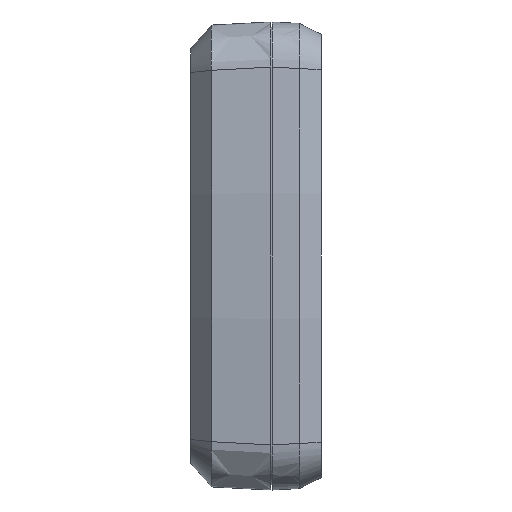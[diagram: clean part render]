
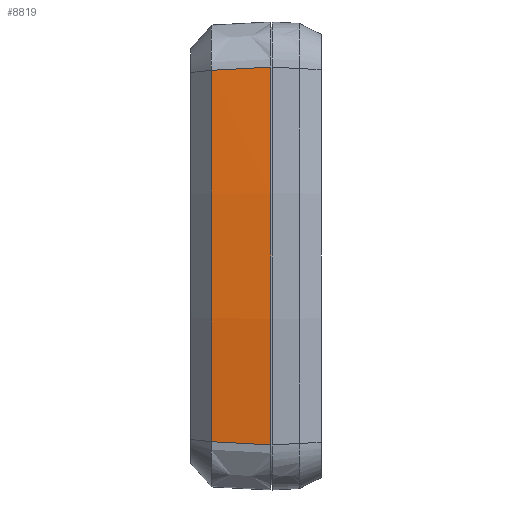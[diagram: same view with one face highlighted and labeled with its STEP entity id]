
A CAD part, left-side view. The second image highlights one B-rep face of the part: STEP entity #8819.
In plain terms, the highlighted conical face has half-angle 3 degrees and reference radius 490.643 mm.
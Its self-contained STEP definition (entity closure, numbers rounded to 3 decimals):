
#52 = CARTESIAN_POINT ( 'NONE',  ( -49.988, 4.936, -46.954 ) ) ;
#72 = AXIS2_PLACEMENT_3D ( 'NONE', #9546, #4339, #10435 ) ;
#299 = EDGE_CURVE ( 'NONE', #4056, #7175, #4051, .T. ) ;
#1024 = CARTESIAN_POINT ( 'NONE',  ( 438.143, 0., 0. ) ) ;
#1170 = CARTESIAN_POINT ( 'NONE',  ( 438.143, 0., 0. ) ) ;
#1910 = DIRECTION ( 'NONE',  ( 0., 0., 1. ) ) ;
#2475 = EDGE_CURVE ( 'NONE', #7175, #10667, #4737, .T. ) ;
#3655 = CARTESIAN_POINT ( 'NONE',  ( -49.519, 14.807, -46.424 ) ) ;
#3725 = CARTESIAN_POINT ( 'NONE',  ( -50.223, 0., 47.218 ) ) ;
#3873 = ORIENTED_EDGE ( 'NONE', *, *, #4615, .T. ) ;
#4051 = CIRCLE ( 'NONE', #72, 489.867 ) ;
#4056 = VERTEX_POINT ( 'NONE', #8674 ) ;
#4242 = CONICAL_SURFACE ( 'NONE', #10217, 490.643, 0.052 ) ;
#4339 = DIRECTION ( 'NONE',  ( 0., -1., 0. ) ) ;
#4347 = CARTESIAN_POINT ( 'NONE',  ( -49.519, 14.807, -46.424 ) ) ;
#4516 = FACE_OUTER_BOUND ( 'NONE', #8921, .T. ) ;
#4615 = EDGE_CURVE ( 'NONE', #8289, #4056, #4942, .T. ) ;
#4737 = B_SPLINE_CURVE_WITH_KNOTS ( 'NONE', 3,
 ( #4347, #9555, #52, #6096 ),
 .UNSPECIFIED., .F., .F.,
 ( 4, 4 ),
 ( 0.005, 0.02 ),
 .UNSPECIFIED. ) ;
#4942 = B_SPLINE_CURVE_WITH_KNOTS ( 'NONE', 3,
 ( #3725, #8934, #10700, #5460 ),
 .UNSPECIFIED., .F., .F.,
 ( 4, 4 ),
 ( 0., 0.015 ),
 .UNSPECIFIED. ) ;
#4946 = CIRCLE ( 'NONE', #6985, 490.643 ) ;
#5460 = CARTESIAN_POINT ( 'NONE',  ( -49.519, 14.807, 46.424 ) ) ;
#5693 = CARTESIAN_POINT ( 'NONE',  ( -50.223, 0., -47.218 ) ) ;
#6083 = ORIENTED_EDGE ( 'NONE', *, *, #299, .T. ) ;
#6096 = CARTESIAN_POINT ( 'NONE',  ( -50.223, 0., -47.218 ) ) ;
#6308 = DIRECTION ( 'NONE',  ( 0., 0., 1. ) ) ;
#6985 = AXIS2_PLACEMENT_3D ( 'NONE', #1024, #7080, #1910 ) ;
#7080 = DIRECTION ( 'NONE',  ( 0., 1., 0. ) ) ;
#7106 = EDGE_CURVE ( 'NONE', #10667, #8289, #4946, .T. ) ;
#7175 = VERTEX_POINT ( 'NONE', #3655 ) ;
#7471 = ORIENTED_EDGE ( 'NONE', *, *, #2475, .T. ) ;
#8082 = DIRECTION ( 'NONE',  ( 0., -1., 0. ) ) ;
#8289 = VERTEX_POINT ( 'NONE', #9931 ) ;
#8674 = CARTESIAN_POINT ( 'NONE',  ( -49.519, 14.807, 46.424 ) ) ;
#8819 = ADVANCED_FACE ( 'NONE', ( #4516 ), #4242, .T. ) ;
#8921 = EDGE_LOOP ( 'NONE', ( #3873, #6083, #7471, #10328 ) ) ;
#8934 = CARTESIAN_POINT ( 'NONE',  ( -49.988, 4.936, 46.954 ) ) ;
#9546 = CARTESIAN_POINT ( 'NONE',  ( 438.143, 14.807, 0. ) ) ;
#9555 = CARTESIAN_POINT ( 'NONE',  ( -49.754, 9.871, -46.689 ) ) ;
#9931 = CARTESIAN_POINT ( 'NONE',  ( -50.223, 0., 47.218 ) ) ;
#10217 = AXIS2_PLACEMENT_3D ( 'NONE', #1170, #8082, #6308 ) ;
#10328 = ORIENTED_EDGE ( 'NONE', *, *, #7106, .T. ) ;
#10435 = DIRECTION ( 'NONE',  ( 0., 0., -1. ) ) ;
#10667 = VERTEX_POINT ( 'NONE', #5693 ) ;
#10700 = CARTESIAN_POINT ( 'NONE',  ( -49.754, 9.871, 46.689 ) ) ;
